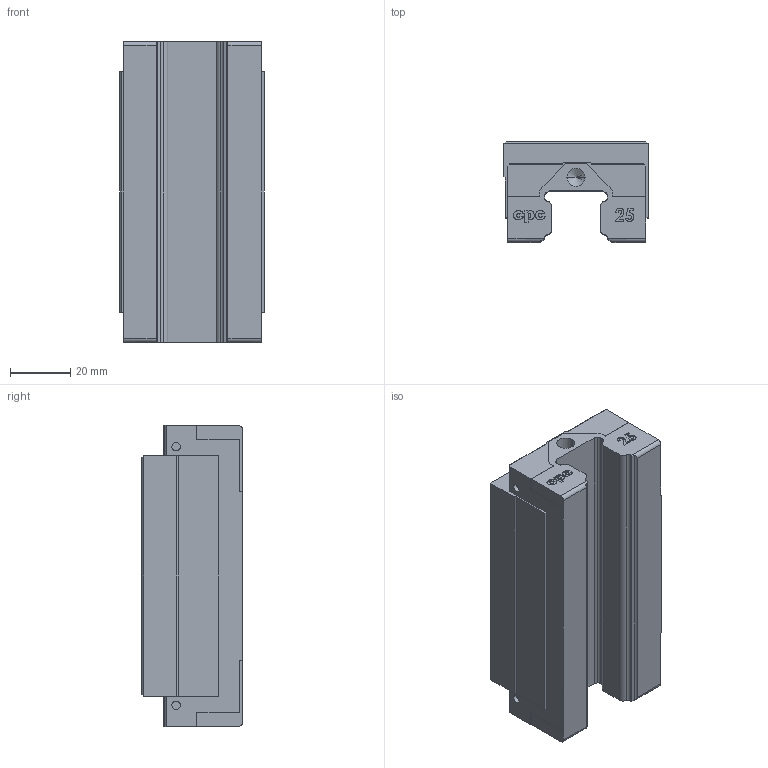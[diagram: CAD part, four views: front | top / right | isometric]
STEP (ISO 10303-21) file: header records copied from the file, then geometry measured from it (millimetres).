
FILE_DESCRIPTION (( 'STEP AP203' ), '1' );
FILE_NAME ('HR25ML.STEP', '2009-08-04T05:25:02', ( 'cpc' ), ( '' ), 'SwSTEP 2.0', 'SolidWorks 2007', '' );
FILE_SCHEMA (( 'CONFIG_CONTROL_DESIGN' ));
Length unit declared in the file: millimetre
Products named in the file (1): HR25ML
Bounding box: 48 x 33.6 x 100.2 mm (x, y, z)
Volume: 119066.7 mm3; surface area: 23119.7 mm2
Topology: 1 solids, 1 shells, 312 faces, 838 edges, 546 vertices
Faces by surface type: plane 146, bspline 86, cylinder 60, cone 20
Entity records: 14043 total; most frequent: CARTESIAN_POINT 6743, ORIENTED_EDGE 1652, DIRECTION 1208, EDGE_CURVE 826, VERTEX_POINT 546, VECTOR 522, LINE 522, AXIS2_PLACEMENT_3D 343
